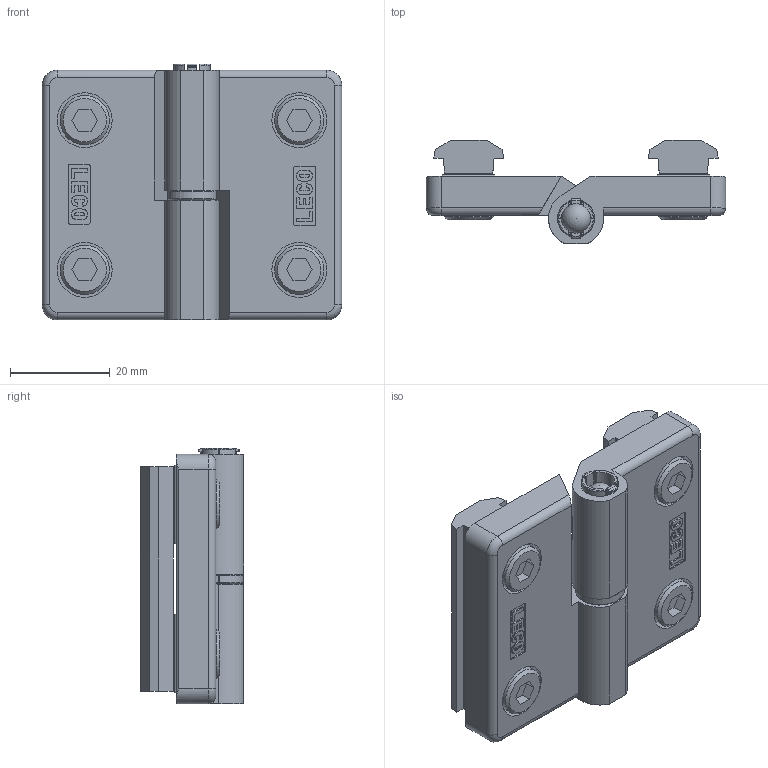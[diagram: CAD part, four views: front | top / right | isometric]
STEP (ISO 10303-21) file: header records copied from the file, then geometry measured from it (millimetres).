
FILE_DESCRIPTION(('STEP AP214'),'1');
FILE_NAME('H40WC-L.stp','2024-06-11T11:22:51',(' '),(' '),'Spatial InterOp 3D',' ',' ');
FILE_SCHEMA(('AUTOMOTIVE_DESIGN { 1 0 10303 214 1 1 1 1 }'));
Length unit declared in the file: millimetre
Products named in the file (12): H40C; H40W-L; ねじ : 穴付き - M6.0 x 10.0; ﾋﾝｼﾞﾋﾟﾝ; NFM6S-P30; H40WC-L; ﾋﾝｼﾞL部品; クリーンヒンジブッシュ
Assembly tree (13 placements, depth 3):
  H40WC-L
    H40C
      H40W-L
      ねじ : 穴付き - M6.0 x 10.0  x2
      ねじ : 穴付き - M6.0 x 10.0  x2
      ﾋﾝｼﾞﾋﾟﾝ
      NFM6S-P30
    H40C
      ﾋﾝｼﾞL部品
      NFM6S-P30
    クリーンヒンジブッシュ
    クリーンヒンジブッシュ
Bounding box: 60 x 20.7 x 51.22 mm (x, y, z)
Volume: 31274.7 mm3; surface area: 18941.9 mm2
Topology: 13 solids, 13 shells, 366 faces, 931 edges, 616 vertices
Faces by surface type: plane 195, cylinder 143, torus 16, cone 11, sphere 1
Full cylindrical faces by diameter (mm): 6 x10, 6.5 x4, 7.5 x1, 9.87 x4, 11 x4
Entity records: 13509 total; most frequent: CARTESIAN_POINT 2103, DIRECTION 1802, ORIENTED_EDGE 1706, EDGE_CURVE 853, AXIS2_PLACEMENT_3D 650, VERTEX_POINT 579, LINE 502, VECTOR 502
